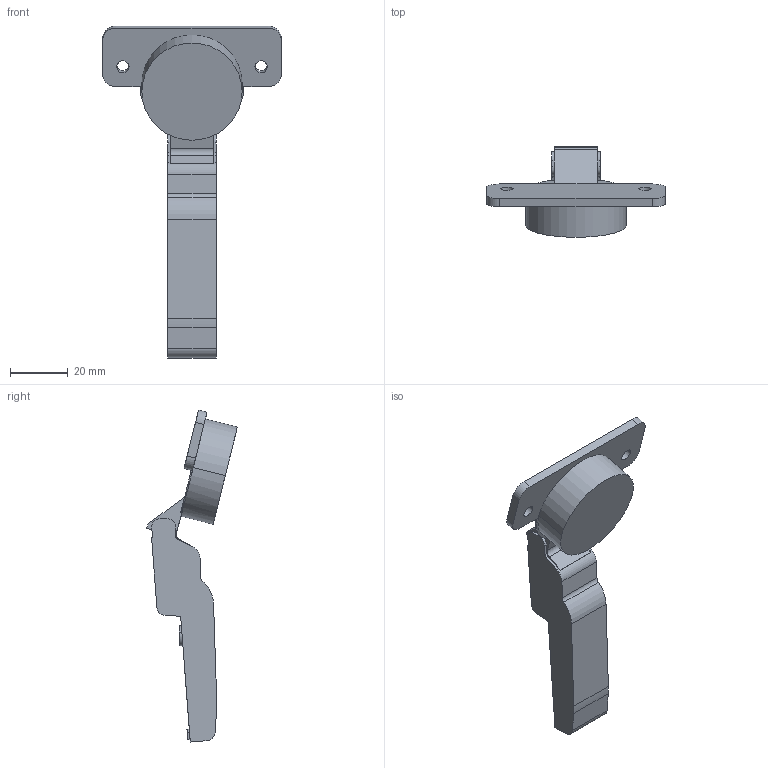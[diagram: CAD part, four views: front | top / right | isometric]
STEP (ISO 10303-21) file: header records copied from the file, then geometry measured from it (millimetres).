
FILE_DESCRIPTION (( 'STEP AP203' ), '1' );
FILE_NAME ('C82B276F-DTC 3D open.STEP', '2024-09-09T06:32:22', ( '微软用户' ), ( '微软中国' ), 'SwSTEP 2.0', 'SolidWorks 2021', '' );
FILE_SCHEMA (( 'CONFIG_CONTROL_DESIGN' ));
Length unit declared in the file: millimetre
Products named in the file (1): C82B276F-DTC 3D open
Bounding box: 61.96 x 31.53 x 115.29 mm (x, y, z)
Volume: 31892.5 mm3; surface area: 10468.5 mm2
Topology: 1 solids, 1 shells, 86 faces, 247 edges, 164 vertices
Faces by surface type: plane 45, cylinder 39, bspline 2
Entity records: 2932 total; most frequent: CARTESIAN_POINT 542, ORIENTED_EDGE 494, DIRECTION 485, EDGE_CURVE 247, VERTEX_POINT 164, AXIS2_PLACEMENT_3D 163, VECTOR 159, LINE 159
